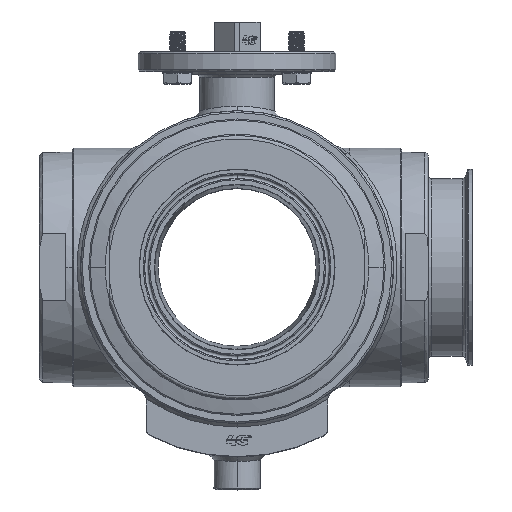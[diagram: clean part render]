
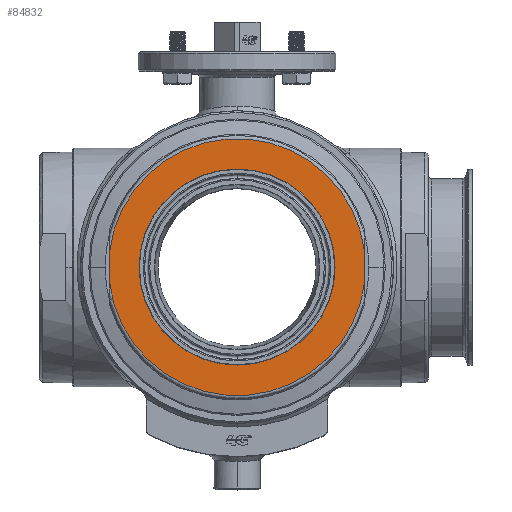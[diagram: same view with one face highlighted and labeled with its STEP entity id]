
A CAD part, top view. The second image highlights one B-rep face of the part: STEP entity #84832.
In plain terms, the highlighted planar face has unit normal (0, 0, 1).
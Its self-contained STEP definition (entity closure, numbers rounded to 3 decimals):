
#2968=CARTESIAN_POINT('',(0.,0.,116.));
#2969=DIRECTION('',(0.,0.,-1.));
#2970=DIRECTION('',(-0.994,0.113,0.));
#2971=AXIS2_PLACEMENT_3D('',#2968,#2969,#2970);
#2976=DIRECTION('',(0.,1.,0.));
#2977=VECTOR('',#2976,17.635);
#2978=CARTESIAN_POINT('',(77.5,-8.818,116.));
#2979=LINE('',#2978,#2977);
#2983=CARTESIAN_POINT('',(0.,0.,116.));
#2984=DIRECTION('',(0.,0.,-1.));
#2985=DIRECTION('',(0.994,-0.113,0.));
#2986=AXIS2_PLACEMENT_3D('',#2983,#2984,#2985);
#2991=DIRECTION('',(0.,1.,0.));
#2992=VECTOR('',#2991,17.635);
#2993=CARTESIAN_POINT('',(-77.5,-8.818,116.));
#2994=LINE('',#2993,#2992);
#2998=CARTESIAN_POINT('',(0.,0.,116.));
#2999=DIRECTION('',(0.,0.,1.));
#3000=DIRECTION('',(0.,1.,0.));
#3001=AXIS2_PLACEMENT_3D('',#2998,#2999,#3000);
#3006=CARTESIAN_POINT('',(0.,0.,116.));
#3007=DIRECTION('',(0.,0.,1.));
#3008=DIRECTION('',(0.,-1.,0.));
#3009=AXIS2_PLACEMENT_3D('',#3006,#3007,#3008);
#3043=CARTESIAN_POINT('',(77.5,8.818,116.));
#3167=CARTESIAN_POINT('',(-77.5,-8.818,116.));
#79750=CARTESIAN_POINT('',(0.,56.,116.));
#79751=CARTESIAN_POINT('',(0.,-56.,116.));
#79752=VERTEX_POINT('',#79750);
#79753=VERTEX_POINT('',#79751);
#79759=VERTEX_POINT('',#3043);
#79760=CARTESIAN_POINT('',(-77.5,8.818,116.));
#79761=VERTEX_POINT('',#79760);
#79764=VERTEX_POINT('',#3167);
#79765=CARTESIAN_POINT('',(77.5,-8.818,116.));
#79766=VERTEX_POINT('',#79765);
#84812=CARTESIAN_POINT('',(0.,0.,116.));
#84813=DIRECTION('',(0.,0.,1.));
#84814=DIRECTION('',(0.,1.,0.));
#84815=AXIS2_PLACEMENT_3D('',#84812,#84813,#84814);
#84816=PLANE('',#84815);
#84818=ORIENTED_EDGE('',*,*,#84817,.T.);
#84820=ORIENTED_EDGE('',*,*,#84819,.F.);
#84822=ORIENTED_EDGE('',*,*,#84821,.T.);
#84824=ORIENTED_EDGE('',*,*,#84823,.T.);
#84825=EDGE_LOOP('',(#84818,#84820,#84822,#84824));
#84826=FACE_OUTER_BOUND('',#84825,.F.);
#84828=ORIENTED_EDGE('',*,*,#84827,.T.);
#84829=ORIENTED_EDGE('',*,*,#84802,.T.);
#84830=EDGE_LOOP('',(#84828,#84829));
#84831=FACE_BOUND('',#84830,.F.);
#84832=ADVANCED_FACE('',(#84826,#84831),#84816,.T.);
#2972=CIRCLE('',#2971,78.);
#2987=CIRCLE('',#2986,78.);
#3002=CIRCLE('',#3001,56.);
#3010=CIRCLE('',#3009,56.);
#84802=EDGE_CURVE('',#79753,#79752,#3010,.T.);
#84817=EDGE_CURVE('',#79761,#79759,#2972,.T.);
#84819=EDGE_CURVE('',#79766,#79759,#2979,.T.);
#84821=EDGE_CURVE('',#79766,#79764,#2987,.T.);
#84823=EDGE_CURVE('',#79764,#79761,#2994,.T.);
#84827=EDGE_CURVE('',#79752,#79753,#3002,.T.);
